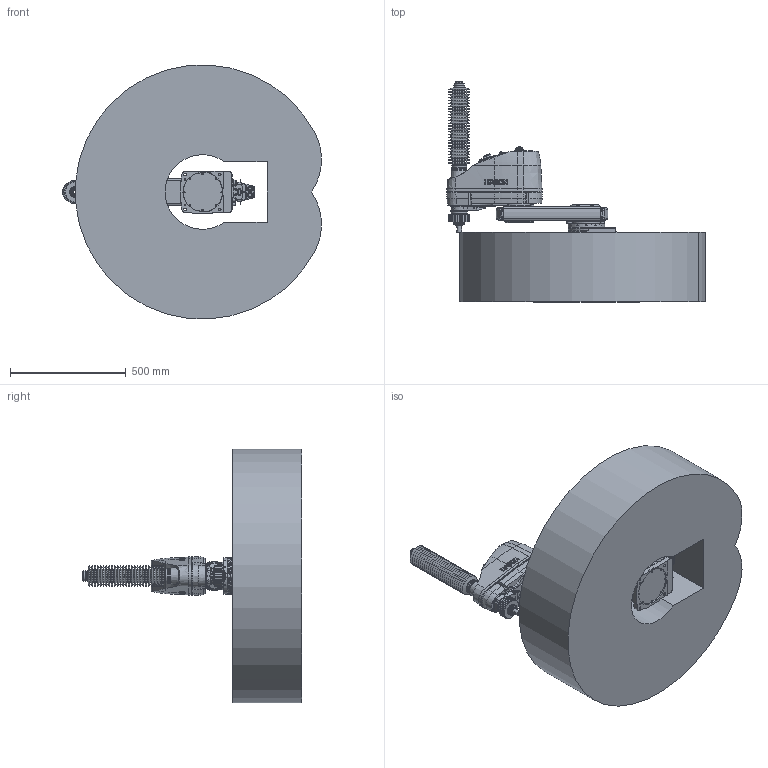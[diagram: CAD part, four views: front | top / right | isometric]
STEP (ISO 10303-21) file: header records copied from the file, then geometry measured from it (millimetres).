
FILE_DESCRIPTION( ( 'STEP AP214' ), '1' );
FILE_NAME( 'C:/Users/9607552/Desktop/GX8-B553C_langle.stp', '2023-07-07T02:30:18', ( '' ), ( '' ), ' ', 'PARTsolutions', ' ' );
FILE_SCHEMA( ( 'AUTOMOTIVE_DESIGN { 1 0 10303 214 1 1 1 1 }' ) );
Length unit declared in the file: millimetre
Products named in the file (11): GX8-B553CA-W; _B452C_BASE; _B552C; _B552C_1; _B552C_2; _B452C_J2; _B453CZA; _2-B-long; _2-B-short; _Angle-B; _GX8-16-1-B_WS
Assembly tree (12 placements, depth 2):
  GX8-B553CA-W
    _B452C_BASE
    _B552C
    _B552C_1  x2
    _B552C_2  x2
    _B452C_J2
    _B453CZA
    _2-B-long
    _2-B-short
    _Angle-B
    _GX8-16-1-B_WS
Bounding box: 1119.76 x 950.5 x 1098.33 mm (x, y, z)
Volume: 269962589.4 mm3; surface area: 4578064.4 mm2
Topology: 12 solids, 16 shells, 3384 faces, 8116 edges, 5227 vertices
Faces by surface type: plane 1605, cylinder 1113, cone 465, torus 159, bspline 37, sphere 5
Full cylindrical faces by diameter (mm): 1 x48, 1.18 x55, 2.261 x4, 2.459 x12, 3 x32, 3.242 x18, 3.3 x4, 3.9 x4, 4.2 x8, 4.5 x12, 4.8 x4, 5.34 x4, 5.5 x17, 6 x5, 6.2 x4, 6.647 x4, 6.8 x2, 7 x48, 8 x5, 8.5 x4, 9 x24, 10 x18, 11 x4, 11.2 x5, 11.5 x1, 12 x5, 12.2 x1, 12.25 x1, 13 x3, 13.2 x12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
Entity records: 119591 total; most frequent: CARTESIAN_POINT 22217, DIRECTION 14949, ORIENTED_EDGE 13308, EDGE_CURVE 6654, AXIS2_PLACEMENT_3D 5874, VERTEX_POINT 4844, EDGE_LOOP 4632, FACE_OUTER_BOUND 3825
